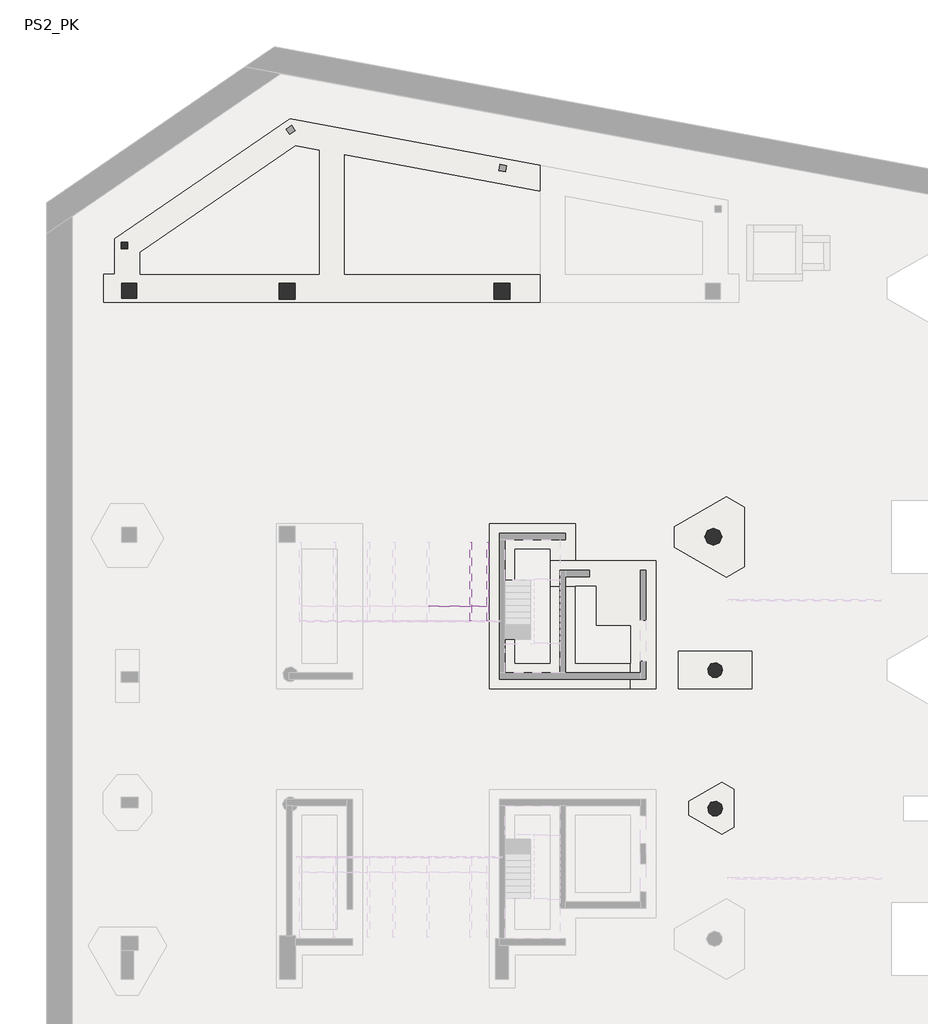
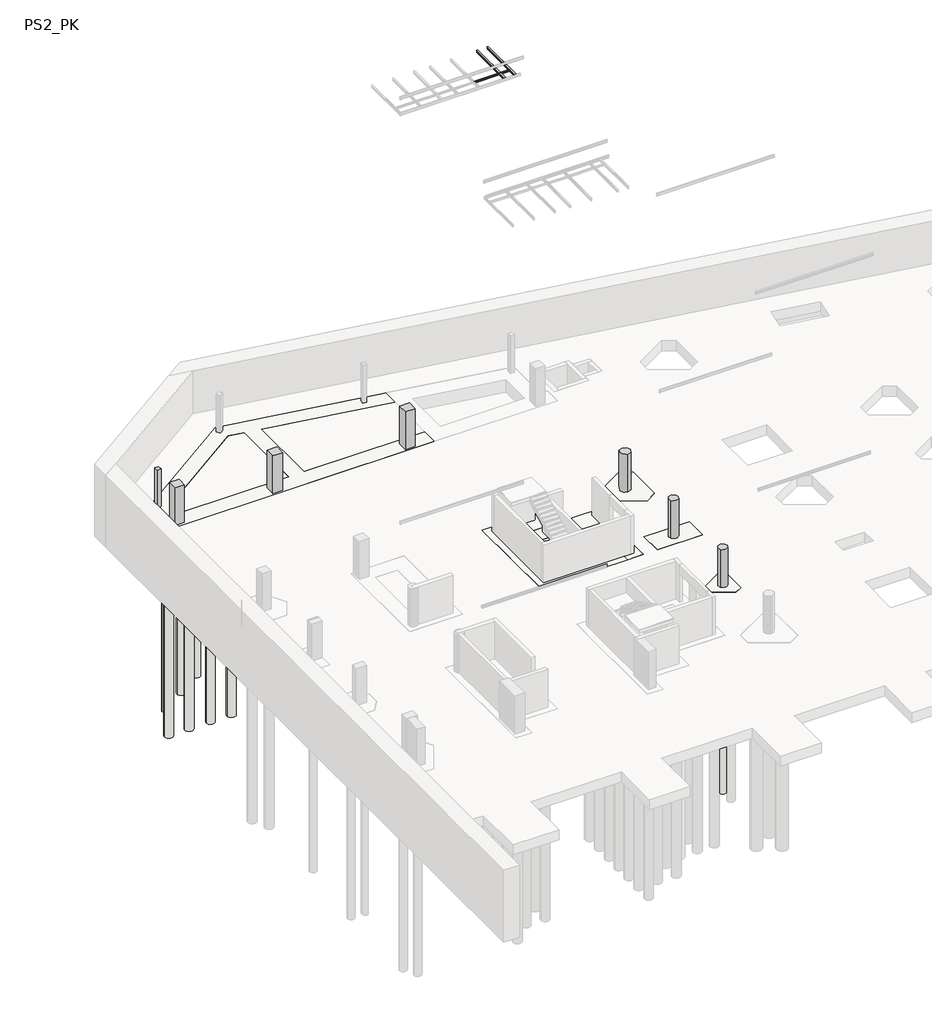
# One storey, part 6 of 10: 51 slabs, 7 columns, 4 beams.
"""IFC4 building model written with IfcOpenShell, lengths in millimetres."""

from ifc_helpers import new_model, si_unit, point, frame, frame_2d, origin, place, context, project, spatial, polyline, circle_curve, trimmed, segment, composite_curve, outline, extrude, faceted_brep, transform, mapped, element, save
from components import ub_universal_beams_ipe_160x82_eda7b881, upn120x55_f3862d68, upn120x55_dbb17e30

model = new_model("IFC4")

# Units and contexts
model_context = context("Model", 3, world=origin())
ifc_project = project(units=[si_unit("LENGTHUNIT", "METRE", prefix="MILLI")], contexts=[model_context])

# Site, building, storey
site = spatial("IfcSite", under=ifc_project)
building = spatial("IfcBuilding", under=site)
storey = spatial("IfcBuildingStorey", under=building, Name="PS2_PK", Elevation=-1600.0)

# Beams
placement = place(None, origin())
ub_universal_beams_ipe_160x82_shape = ub_universal_beams_ipe_160x82_eda7b881(model_context)
element("IfcBeam", 1, ObjectType="UB-Universal Beams : IPE 160x82", at=placement, inside=storey, context=model_context, shape_type="MappedRepresentation", body=[
    mapped(ub_universal_beams_ipe_160x82_shape, transform((-14190.4459331, 11897.1886055, 37780.0), x_axis=(0.0, -1.0, 0.0), y_axis=(1.0, 0.0, 0.0), z_axis=(0.0, 0.0, 1.0))),
])
element("IfcBeam", 2, ObjectType="UB-Universal Beams : IPE 160x82", at=placement, inside=storey, context=model_context, shape_type="MappedRepresentation", body=[
    mapped(ub_universal_beams_ipe_160x82_shape, transform((-14990.4459326, 11897.1885928, 37780.0), x_axis=(0.0, -1.0, 0.0), y_axis=(1.0, 0.0, 0.0), z_axis=(0.0, 0.0, 1.0))),
])
upn120x55_shape = upn120x55_f3862d68(model_context)
element("IfcBeam", 3, ObjectType="M_MC Shapes : UPN120x55", at=placement, inside=storey, context=model_context, shape_type="MappedRepresentation", body=[
    mapped(upn120x55_shape, transform((-15990.4459321, 10751.9795763, 37800.0), x_axis=(0.9999999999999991, 4.319865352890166e-08, 0.0), y_axis=(-4.319865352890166e-08, 0.9999999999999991, 0.0), z_axis=(0.0, 0.0, 1.0))),
])
upn120x55_2_shape = upn120x55_dbb17e30(model_context)
element("IfcBeam", 4, ObjectType="M_MC Shapes : UPN120x55", at=placement, inside=storey, context=model_context, shape_type="MappedRepresentation", body=[
    mapped(upn120x55_2_shape, transform((-14590.4459328, 10751.9796368, 37800.0), x_axis=(0.9999999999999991, 4.319865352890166e-08, 0.0), y_axis=(-4.319865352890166e-08, 0.9999999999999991, 0.0), z_axis=(0.0, 0.0, 1.0))),
])

# Columns
element("IfcColumn", 5, ObjectType="Hormigón-Redondo-Pilar : Pilo_Rodo-Formigo-700", at=placement, inside=storey, context=model_context, shape_type="SweptSolid", body=[
    extrude(outline(composite_curve([segment(trimmed(circle_curve(frame_2d((-3515.29311, 7739.8960687)), 350.0), [point((-3803.5600274, 7541.3962342))], [point((-3227.0261926, 7938.3959033))], False, "CARTESIAN"), True, "CONTINUOUS"), segment(trimmed(circle_curve(frame_2d((-3515.29311, 7739.8960687)), 350.0), [point((-3227.0261926, 7938.3959033))], [point((-3803.5600274, 7541.3962342))], False, "CARTESIAN"), True, "CONTINUOUS")], self_intersect=False)), frame((0.0, 0.0, -1600.0), z_axis=(0.0, 0.0, 1.0), x_axis=(1.0, 0.0, 0.0)), (0.0, 0.0, 1.0), 3050.0),
])
element("IfcColumn", 6, ObjectType="Hormigón-Redondo-Pilar : Pilo_Rodo-Formigo-700", at=placement, inside=storey, context=model_context, shape_type="SweptSolid", body=[
    extrude(outline(composite_curve([segment(trimmed(circle_curve(frame_2d((-3515.2931009, 1239.9008566)), 350.0), [point((-3803.5600183, 1041.401022))], [point((-3227.0261835, 1438.4006912))], False, "CARTESIAN"), True, "CONTINUOUS"), segment(trimmed(circle_curve(frame_2d((-3515.2931009, 1239.9008566)), 350.0), [point((-3227.0261835, 1438.4006912))], [point((-3803.5600183, 1041.401022))], False, "CARTESIAN"), True, "CONTINUOUS")], self_intersect=False)), frame((0.0, 0.0, -1600.0), z_axis=(0.0, 0.0, 1.0), x_axis=(1.0, 0.0, 0.0)), (0.0, 0.0, 1.0), 3050.0),
])
element("IfcColumn", 7, ObjectType="Hormigón-Redondo-Pilar : Pilo_Rodo-Formigo-800", at=placement, inside=storey, context=model_context, shape_type="SweptSolid", body=[
    extrude(outline(composite_curve([segment(trimmed(circle_curve(frame_2d((-3591.6098322, 13989.4007732)), 400.0), [point((-3591.6098322, 14389.4007732))], [point((-3591.6098322, 13589.4007732))], False, "CARTESIAN"), True, "CONTINUOUS"), segment(trimmed(circle_curve(frame_2d((-3591.6098322, 13989.4007732)), 400.0), [point((-3591.6098322, 13589.4007732))], [point((-3591.6098322, 14389.4007732))], False, "CARTESIAN"), True, "CONTINUOUS")], self_intersect=False)), frame((0.0, 0.0, -1600.0), z_axis=(0.0, 0.0, 1.0), x_axis=(1.0, 0.0, 0.0)), (0.0, 0.0, 1.0), 3050.0),
])
element("IfcColumn", 8, ObjectType="Concrete-Rectangular-Column : Pilar_Rectangular-Formigo-750x750", at=placement, inside=storey, context=model_context, shape_type="SweptSolid", body=[
    extrude(outline(polyline([(-23241.1442531, 25889.4252361), (-23241.1452017, 25139.4252361), (-23991.1452017, 25139.4261847), (-23991.1442531, 25889.4261847), (-23241.1442531, 25889.4252361)])), frame((0.0, 0.0, -1600.0), z_axis=(0.0, 0.0, 1.0), x_axis=(1.0, 0.0, 0.0)), (0.0, 0.0, 1.0), 3050.0),
])
element("IfcColumn", 9, ObjectType="Concrete-Rectangular-Column : Pilar_Rectangular-Formigo-750x750", at=placement, inside=storey, context=model_context, shape_type="SweptSolid", body=[
    extrude(outline(polyline([(-13140.3357467, 25889.4124959), (-13140.3366928, 25139.4124959), (-13890.3366928, 25139.4134421), (-13890.3357467, 25889.4134421), (-13140.3357467, 25889.4124959)])), frame((0.0, 0.0, -1600.0), z_axis=(0.0, 0.0, 1.0), x_axis=(1.0, 0.0, 0.0)), (0.0, 0.0, 1.0), 3050.0),
])
element("IfcColumn", 10, ObjectType="Concrete-Rectangular-Column : Pilar_Rectangular-Formigo-700x700", at=placement, inside=storey, context=model_context, shape_type="SweptSolid", body=[
    extrude(outline(polyline([(-30691.1861619, 25889.434628), (-30691.187047, 25189.434628), (-31391.187047, 25189.4355131), (-31391.1861619, 25889.4355131), (-30691.1861619, 25889.434628)])), frame((0.0, 0.0, -1600.0), z_axis=(0.0, 0.0, 1.0), x_axis=(1.0, 0.0, 0.0)), (0.0, 0.0, 1.0), 3050.0),
])
element("IfcColumn", 11, ObjectType="Concrete-Rectangular-Column : Pilar_Rectangular-Formigo-300x300", at=placement, inside=storey, context=model_context, shape_type="SweptSolid", body=[
    extrude(outline(polyline([(-31115.4894009, 27827.9183068), (-31115.4679491, 27527.9183076), (-31415.4679483, 27527.8968558), (-31415.4894002, 27827.896855), (-31115.4894009, 27827.9183068)])), frame((0.0, 0.0, -1600.0), z_axis=(0.0, 0.0, 1.0), x_axis=(1.0, 0.0, 0.0)), (0.0, 0.0, 1.0), 3050.0),
])

# Slabs
element("IfcSlab", 12, ObjectType="FunCap_Concreto_1100", at=placement, inside=storey, context=model_context, shape_type="Brep", body=[
    faceted_brep([(-31715.282563, 27986.0387498, -2700.0), (-23482.9022416, 33625.5735157, -2700.0), (-11740.275697, 31437.3264138, -2700.0), (-11740.2761638, 31068.2628162, -2700.0), (-11740.2766508, 30683.3357077, -2700.0), (-11740.2772411, 30216.6685595, -2700.0), (-20915.2775793, 31926.4366264, -2700.0), (-20915.2846764, 26314.9064878, -2700.0), (-11740.2821769, 26314.8948822, -2700.0), (-11740.2838214, 25014.8948826, -2700.0), (-32240.2838215, 25014.9208132, -2700.0), (-32240.2821764, 26314.9208126, -2700.0), (-31715.2846771, 26314.9201486, -2700.0), (-23214.4700448, 32354.8928362, -2700.0), (-30515.2833633, 27353.5215557, -2700.0), (-30515.2846769, 26314.9186308, -2700.0), (-22115.284678, 26314.908006, -2700.0), (-22115.2772961, 32150.0574576, -2700.0), (-31715.282563, 27986.0387498, -1600.0), (-31715.2846771, 26314.9201486, -1600.0), (-32240.2821764, 26314.9208126, -1600.0), (-32240.2838215, 25014.9208132, -1600.0), (-11740.2838214, 25014.8948826, -1600.0), (-11740.2821769, 26314.8948822, -1600.0), (-20915.2846764, 26314.9064878, -1600.0), (-20915.2775793, 31926.4366264, -1600.0), (-11740.2772411, 30216.6685595, -1600.0), (-11740.275697, 31437.3264138, -1600.0), (-23482.9022416, 33625.5735157, -1600.0), (-23214.4700448, 32354.8928362, -1600.0), (-22115.2772961, 32150.0574576, -1600.0), (-22115.284678, 26314.908006, -1600.0), (-30515.2846769, 26314.9186308, -1600.0), (-30515.2833633, 27353.5215557, -1600.0), (-31715.282563, 27986.0387498, -2400.0), (-23482.9022416, 33625.5735157, -2400.0), (-11740.2772411, 30216.6685595, -2400.0), (-20915.2775793, 31926.4366264, -2400.0), (-20915.2846764, 26314.9064878, -2400.0), (-11740.2821769, 26314.8948822, -2400.0), (-32240.2838215, 25014.9208132, -2400.0), (-32240.2821764, 26314.9208126, -2400.0), (-31715.2846771, 26314.9201486, -2400.0), (-23214.4700448, 32354.8928362, -2400.0), (-30515.2833633, 27353.5215557, -2400.0), (-30515.2846769, 26314.9186308, -2400.0), (-22115.284678, 26314.908006, -2400.0), (-22115.2772961, 32150.0574576, -2400.0)], [[[0, 1, 2, 3, 4, 5, 6, 7, 8, 9, 10, 11, 12], [13, 14, 15, 16, 17]], [[18, 19, 20, 21, 22, 23, 24, 25, 26, 27, 28], [29, 30, 31, 32, 33]], [[1, 0, 34, 18, 28, 35]], [[2, 1, 35, 28, 27]], [[5, 4, 3, 2, 27, 26, 36]], [[6, 5, 36, 26, 25, 37]], [[7, 6, 37, 25, 24, 38]], [[8, 7, 38, 24, 23, 39]], [[9, 8, 39, 23, 22]], [[10, 9, 22, 21, 40]], [[11, 10, 40, 21, 20, 41]], [[12, 11, 41, 20, 19, 42]], [[0, 12, 42, 19, 18, 34]], [[14, 13, 43, 29, 33, 44]], [[15, 14, 44, 33, 32, 45]], [[16, 15, 45, 32, 31, 46]], [[17, 16, 46, 31, 30, 47]], [[13, 17, 47, 30, 29, 43]]]),
])
element("IfcSlab", 13, ObjectType="FunCap_Concreto_1100", at=placement, inside=storey, context=model_context, shape_type="Brep", body=[
    faceted_brep([(-2988.4632595, 15877.3838122, -2700.0), (-2144.0891069, 15389.8827438, -2700.0), (-2144.0926487, 12589.8827436, -2700.0), (-2988.4680339, 12102.3838123, -2700.0), (-5413.337393, 13502.3868799, -2700.0), (-5413.3361598, 14477.3868796, -2700.0), (-2988.4632595, 15877.3838122, -1600.0), (-5413.3361598, 14477.3868796, -1600.0), (-5413.337393, 13502.3868799, -1600.0), (-2988.4680339, 12102.3838123, -1600.0), (-2144.0926487, 12589.8827436, -1600.0), (-2144.0891069, 15389.8827438, -1600.0), (-2988.4632595, 15877.3838122, -2400.0), (-2144.0891069, 15389.8827438, -2400.0), (-2144.0926487, 12589.8827436, -2400.0), (-2988.4680339, 12102.3838123, -2400.0), (-5413.337393, 13502.3868799, -2400.0), (-5413.3361598, 14477.3868796, -2400.0)], [[[0, 1, 2, 3, 4, 5]], [[6, 7, 8, 9, 10, 11]], [[1, 0, 12, 6, 11, 13]], [[2, 1, 13, 11, 10, 14]], [[3, 2, 14, 10, 9, 15]], [[4, 3, 15, 9, 8, 16]], [[5, 4, 16, 8, 7, 17]], [[0, 5, 17, 7, 6, 12]]]),
])
element("IfcSlab", 14, ObjectType="FunCap_Concreto_1100", at=placement, inside=storey, context=model_context, shape_type="Brep", body=[
    faceted_brep([(-10065.2907731, 14614.8927644, -2700.0), (-10065.2929865, 12864.8930964, -2700.0), (-11265.2929855, 12864.8946143, -2700.0), (-11265.2922897, 13414.8942806, -2700.0), (-12915.298495, 13414.8963689, -2700.0), (-12915.3052606, 8064.8963679, -2700.0), (-11265.2990581, 8064.8942819, -2700.0), (-11265.2945036, 11664.8946128, -2700.0), (-10065.2945042, 11664.8930953, -2700.0), (-10065.2990574, 8064.8927646, -2700.0), (-7490.3041106, 8064.8895069, -2700.0), (-7490.3056279, 6864.8895068, -2700.0), (-14115.3067799, 6864.8978864, -2700.0), (-14115.296976, 14614.8978873, -2700.0), (-10065.2907731, 14614.8927644, -1600.0), (-14115.296976, 14614.8978873, -1600.0), (-14115.3067799, 6864.8978864, -1600.0), (-7490.3056279, 6864.8895068, -1600.0), (-7490.3041106, 8064.8895069, -1600.0), (-10065.2990574, 8064.8927646, -1600.0), (-10065.2945042, 11664.8930953, -1600.0), (-11265.2945036, 11664.8946128, -1600.0), (-11265.2990581, 8064.8942819, -1600.0), (-12915.3052606, 8064.8963679, -1600.0), (-12915.298495, 13414.8963689, -1600.0), (-11265.2922897, 13414.8942806, -1600.0), (-11265.2929855, 12864.8946143, -1600.0), (-10065.2929865, 12864.8930964, -1600.0), (-10065.2907731, 14614.8927644, -2400.0), (-10065.2929865, 12864.8930964, -2400.0), (-14115.3067799, 6864.8978864, -2400.0), (-14115.296976, 14614.8978873, -2400.0), (-12915.298495, 13414.8963689, -2400.0), (-12915.3052606, 8064.8963679, -2400.0), (-11265.2990581, 8064.8942819, -2400.0), (-11265.2922897, 13414.8942806, -2400.0), (-7490.3041106, 8064.8895069, -2400.0), (-10065.2945042, 11664.8930953, -2400.0), (-10065.2990574, 8064.8927646, -2400.0)], [[[0, 1, 2, 3, 4, 5, 6, 7, 8, 9, 10, 11, 12, 13]], [[14, 15, 16, 17, 18, 19, 20, 21, 22, 23, 24, 25, 26, 27]], [[1, 0, 28, 14, 27, 29]], [[2, 1, 29, 27, 26]], [[12, 11, 17, 16, 30]], [[13, 12, 30, 16, 15, 31]], [[0, 13, 31, 15, 14, 28]], [[5, 4, 32, 24, 23, 33]], [[6, 5, 33, 23, 22, 34]], [[7, 6, 34, 22, 21]], [[4, 3, 35, 25, 24, 32]], [[11, 10, 36, 18, 17]], [[8, 7, 21, 20, 37]], [[9, 8, 37, 20, 19, 38]], [[10, 9, 38, 19, 18, 36]], [[3, 2, 26, 25, 35]]]),
])
element("IfcSlab", 15, ObjectType="FunCap_Concreto_1100", at=placement, inside=storey, context=model_context, shape_type="Brep", body=[
    faceted_brep([(-5240.3045662, 8614.8866605, -2700.0), (-1790.3045642, 8614.8822969, -2700.0), (-1790.3067797, 6864.8822969, -2700.0), (-5240.3067795, 6864.8866605, -2700.0), (-5240.3045662, 8614.8866605, -1600.0), (-5240.3067795, 6864.8866605, -1600.0), (-1790.3067797, 6864.8822969, -1600.0), (-1790.3045642, 8614.8822969, -1600.0), (-5240.3045662, 8614.8866605, -2400.0), (-1790.3045642, 8614.8822969, -2400.0), (-1790.3067797, 6864.8822969, -2400.0), (-5240.3067795, 6864.8866605, -2400.0)], [[[0, 1, 2, 3]], [[4, 5, 6, 7]], [[1, 0, 8, 4, 7, 9]], [[2, 1, 9, 7, 6, 10]], [[3, 2, 10, 6, 5, 11]], [[0, 3, 11, 5, 4, 8]]]),
])
element("IfcSlab", 16, ObjectType="FunCap_Concreto_1100", at=placement, inside=storey, context=model_context, shape_type="Brep", body=[
    faceted_brep([(-2627.636701, 2152.3833555, -2700.0), (-2627.6389786, 352.3833557, -2700.0), (-3190.5559007, 27.3840668, -2700.0), (-4749.4004892, 927.3860381, -2700.0), (-4749.3996674, 1577.3860385, -2700.0), (-3190.5528032, 2477.3840674, -2700.0), (-2627.636701, 2152.3833555, -1600.0), (-3190.5528032, 2477.3840674, -1600.0), (-4749.3996674, 1577.3860385, -1600.0), (-4749.4004892, 927.3860381, -1600.0), (-3190.5559007, 27.3840668, -1600.0), (-2627.6389786, 352.3833557, -1600.0), (-2627.636701, 2152.3833555, -2400.0), (-2627.6389786, 352.3833557, -2400.0), (-3190.5559007, 27.3840668, -2400.0), (-4749.4004892, 927.3860381, -2400.0), (-4749.3996674, 1577.3860385, -2400.0), (-3190.5528032, 2477.3840674, -2400.0)], [[[0, 1, 2, 3, 4, 5]], [[6, 7, 8, 9, 10, 11]], [[1, 0, 12, 6, 11, 13]], [[2, 1, 13, 11, 10, 14]], [[3, 2, 14, 10, 9, 15]], [[4, 3, 15, 9, 8, 16]], [[5, 4, 16, 8, 7, 17]], [[0, 5, 17, 7, 6, 12]]]),
])
element("IfcSlab", 17, ObjectType="Fun_Pilote_Redondo : Fun_Pilote_Redondo_550x16000", at=placement, inside=storey, context=model_context, shape_type="SweptSolid", body=[
    extrude(outline(composite_curve([segment(trimmed(circle_curve(frame_2d((-3197.5652475, 1789.6052198)), 275.0), [point((-3472.5652475, 1789.6052198))], [point((-2922.5652475, 1789.6052198))], False, "CARTESIAN"), True, "CONTINUOUS"), segment(trimmed(circle_curve(frame_2d((-3197.5652475, 1789.6052198)), 275.0), [point((-2922.5652475, 1789.6052198))], [point((-3472.5652475, 1789.6052198))], False, "CARTESIAN"), True, "CONTINUOUS")], self_intersect=False)), frame((0.0, 0.0, -18700.0), z_axis=(0.0, 0.0, 1.0), x_axis=(1.0, 0.0, 0.0)), (0.0, 0.0, 1.0), 16000.0),
])
element("IfcSlab", 18, ObjectType="Fun_Pilote_Redondo : Fun_Pilote_Redondo_Conc_650x16000", at=placement, inside=storey, context=model_context, shape_type="SweptSolid", body=[
    extrude(outline(composite_curve([segment(trimmed(circle_curve(frame_2d((-14123.8798371, 31271.1837309)), 325.0), [point((-14448.8798371, 31271.1837309))], [point((-13798.8798371, 31271.1837309))], False, "CARTESIAN"), True, "CONTINUOUS"), segment(trimmed(circle_curve(frame_2d((-14123.8798371, 31271.1837309)), 325.0), [point((-13798.8798371, 31271.1837309))], [point((-14448.8798371, 31271.1837309))], False, "CARTESIAN"), True, "CONTINUOUS")], self_intersect=False)), frame((0.0, 0.0, -18700.0), z_axis=(0.0, 0.0, 1.0), x_axis=(1.0, 0.0, 0.0)), (0.0, 0.0, 1.0), 16000.0),
])
element("IfcSlab", 19, ObjectType="Fun_Pilote_Redondo : Fun_Pilote_Redondo_Conc_650x16000", at=placement, inside=storey, context=model_context, shape_type="SweptSolid", body=[
    extrude(outline(composite_curve([segment(trimmed(circle_curve(frame_2d((-16245.6001235, 31666.5678686)), 325.0), [point((-16570.6001235, 31666.5678686))], [point((-15920.6001235, 31666.5678686))], False, "CARTESIAN"), True, "CONTINUOUS"), segment(trimmed(circle_curve(frame_2d((-16245.6001235, 31666.5678686)), 325.0), [point((-15920.6001235, 31666.5678686))], [point((-16570.6001235, 31666.5678686))], False, "CARTESIAN"), True, "CONTINUOUS")], self_intersect=False)), frame((0.0, 0.0, -18700.0), z_axis=(0.0, 0.0, 1.0), x_axis=(1.0, 0.0, 0.0)), (0.0, 0.0, 1.0), 16000.0),
])
element("IfcSlab", 20, ObjectType="Fun_Pilote_Redondo : Fun_Pilote_Redondo_Conc_650x16000", at=placement, inside=storey, context=model_context, shape_type="SweptSolid", body=[
    extrude(outline(composite_curve([segment(trimmed(circle_curve(frame_2d((-26598.4080567, 30764.0338242)), 325.0), [point((-26923.4080567, 30764.0338242))], [point((-26273.4080567, 30764.0338242))], False, "CARTESIAN"), True, "CONTINUOUS"), segment(trimmed(circle_curve(frame_2d((-26598.4080567, 30764.0338242)), 325.0), [point((-26273.4080567, 30764.0338242))], [point((-26923.4080567, 30764.0338242))], False, "CARTESIAN"), True, "CONTINUOUS")], self_intersect=False)), frame((0.0, 0.0, -18700.0), z_axis=(0.0, 0.0, 1.0), x_axis=(1.0, 0.0, 0.0)), (0.0, 0.0, 1.0), 16000.0),
])
element("IfcSlab", 21, ObjectType="Fun_Pilote_Redondo : Fun_Pilote_Redondo_Conc_650x16000", at=placement, inside=storey, context=model_context, shape_type="SweptSolid", body=[
    extrude(outline(composite_curve([segment(trimmed(circle_curve(frame_2d((-28441.4558422, 29501.4667848)), 325.0), [point((-28766.4558422, 29501.4667848))], [point((-28116.4558422, 29501.4667848))], False, "CARTESIAN"), True, "CONTINUOUS"), segment(trimmed(circle_curve(frame_2d((-28441.4558422, 29501.4667848)), 325.0), [point((-28116.4558422, 29501.4667848))], [point((-28766.4558422, 29501.4667848))], False, "CARTESIAN"), True, "CONTINUOUS")], self_intersect=False)), frame((0.0, 0.0, -18700.0), z_axis=(0.0, 0.0, 1.0), x_axis=(1.0, 0.0, 0.0)), (0.0, 0.0, 1.0), 16000.0),
])
element("IfcSlab", 22, ObjectType="Fun_Pilote_Redondo : Fun_Pilote_Redondo_Conc_650x16000", at=placement, inside=storey, context=model_context, shape_type="SweptSolid", body=[
    extrude(outline(composite_curve([segment(trimmed(circle_curve(frame_2d((-30284.5036276, 28238.8997454)), 325.0), [point((-30609.5036276, 28238.8997454))], [point((-29959.5036276, 28238.8997454))], False, "CARTESIAN"), True, "CONTINUOUS"), segment(trimmed(circle_curve(frame_2d((-30284.5036276, 28238.8997454)), 325.0), [point((-29959.5036276, 28238.8997454))], [point((-30609.5036276, 28238.8997454))], False, "CARTESIAN"), True, "CONTINUOUS")], self_intersect=False)), frame((0.0, 0.0, -18700.0), z_axis=(0.0, 0.0, 1.0), x_axis=(1.0, 0.0, 0.0)), (0.0, 0.0, 1.0), 16000.0),
])
element("IfcSlab", 23, ObjectType="Fun_Pilote_Redondo : Fun_Pilote_Redondo_Conc_650x16000", at=placement, inside=storey, context=model_context, shape_type="SweptSolid", body=[
    extrude(outline(composite_curve([segment(trimmed(circle_curve(frame_2d((-31615.2829935, 25664.9200256)), 325.0), [point((-31940.2829935, 25664.9200256))], [point((-31290.2829935, 25664.9200256))], False, "CARTESIAN"), True, "CONTINUOUS"), segment(trimmed(circle_curve(frame_2d((-31615.2829935, 25664.9200256)), 325.0), [point((-31290.2829935, 25664.9200256))], [point((-31940.2829935, 25664.9200256))], False, "CARTESIAN"), True, "CONTINUOUS")], self_intersect=False)), frame((0.0, 0.0, -18700.0), z_axis=(0.0, 0.0, 1.0), x_axis=(1.0, 0.0, 0.0)), (0.0, 0.0, 1.0), 16000.0),
])
element("IfcSlab", 24, ObjectType="Fun_Pilote_Redondo : Fun_Pilote_Redondo_Conc_650x16000", at=placement, inside=storey, context=model_context, shape_type="SweptSolid", body=[
    extrude(outline(composite_curve([segment(trimmed(circle_curve(frame_2d((-30058.7811714, 25664.9180567)), 325.0), [point((-30383.7811714, 25664.9180567))], [point((-29733.7811714, 25664.9180567))], False, "CARTESIAN"), True, "CONTINUOUS"), segment(trimmed(circle_curve(frame_2d((-30058.7811714, 25664.9180567)), 325.0), [point((-29733.7811714, 25664.9180567))], [point((-30383.7811714, 25664.9180567))], False, "CARTESIAN"), True, "CONTINUOUS")], self_intersect=False)), frame((0.0, 0.0, -18700.0), z_axis=(0.0, 0.0, 1.0), x_axis=(1.0, 0.0, 0.0)), (0.0, 0.0, 1.0), 16000.0),
])
element("IfcSlab", 25, ObjectType="Fun_Pilote_Redondo : Fun_Pilote_Redondo_Conc_650x16000", at=placement, inside=storey, context=model_context, shape_type="SweptSolid", body=[
    extrude(outline(composite_curve([segment(trimmed(circle_curve(frame_2d((-28437.5052156, 25664.9160053)), 325.0), [point((-28762.5052156, 25664.9160053))], [point((-28112.5052156, 25664.9160053))], False, "CARTESIAN"), True, "CONTINUOUS"), segment(trimmed(circle_curve(frame_2d((-28437.5052156, 25664.9160053)), 325.0), [point((-28112.5052156, 25664.9160053))], [point((-28762.5052156, 25664.9160053))], False, "CARTESIAN"), True, "CONTINUOUS")], self_intersect=False)), frame((0.0, 0.0, -18700.0), z_axis=(0.0, 0.0, 1.0), x_axis=(1.0, 0.0, 0.0)), (0.0, 0.0, 1.0), 16000.0),
])
element("IfcSlab", 26, ObjectType="Fun_Pilote_Redondo : Fun_Pilote_Redondo_Conc_650x16000", at=placement, inside=storey, context=model_context, shape_type="SweptSolid", body=[
    extrude(outline(composite_curve([segment(trimmed(circle_curve(frame_2d((-26848.6163269, 25664.9139954)), 325.0), [point((-27173.6163269, 25664.9139954))], [point((-26523.6163269, 25664.9139954))], False, "CARTESIAN"), True, "CONTINUOUS"), segment(trimmed(circle_curve(frame_2d((-26848.6163269, 25664.9139954)), 325.0), [point((-26523.6163269, 25664.9139954))], [point((-27173.6163269, 25664.9139954))], False, "CARTESIAN"), True, "CONTINUOUS")], self_intersect=False)), frame((0.0, 0.0, -18700.0), z_axis=(0.0, 0.0, 1.0), x_axis=(1.0, 0.0, 0.0)), (0.0, 0.0, 1.0), 16000.0),
])
element("IfcSlab", 27, ObjectType="Fun_Pilote_Redondo : Fun_Pilote_Redondo_Conc_650x16000", at=placement, inside=storey, context=model_context, shape_type="SweptSolid", body=[
    extrude(outline(composite_curve([segment(trimmed(circle_curve(frame_2d((-25259.7274387, 25664.9119855)), 325.0), [point((-25584.7274387, 25664.9119855))], [point((-24934.7274387, 25664.9119855))], False, "CARTESIAN"), True, "CONTINUOUS"), segment(trimmed(circle_curve(frame_2d((-25259.7274387, 25664.9119855)), 325.0), [point((-24934.7274387, 25664.9119855))], [point((-25584.7274387, 25664.9119855))], False, "CARTESIAN"), True, "CONTINUOUS")], self_intersect=False)), frame((0.0, 0.0, -18700.0), z_axis=(0.0, 0.0, 1.0), x_axis=(1.0, 0.0, 0.0)), (0.0, 0.0, 1.0), 16000.0),
])
element("IfcSlab", 28, ObjectType="Fun_Pilote_Redondo : Fun_Pilote_Redondo_Conc_650x16000", at=placement, inside=storey, context=model_context, shape_type="SweptSolid", body=[
    extrude(outline(composite_curve([segment(trimmed(circle_curve(frame_2d((-23670.8385495, 25664.9099756)), 325.0), [point((-23995.8385495, 25664.9099756))], [point((-23345.8385495, 25664.9099756))], False, "CARTESIAN"), True, "CONTINUOUS"), segment(trimmed(circle_curve(frame_2d((-23670.8385495, 25664.9099756)), 325.0), [point((-23345.8385495, 25664.9099756))], [point((-23995.8385495, 25664.9099756))], False, "CARTESIAN"), True, "CONTINUOUS")], self_intersect=False)), frame((0.0, 0.0, -18700.0), z_axis=(0.0, 0.0, 1.0), x_axis=(1.0, 0.0, 0.0)), (0.0, 0.0, 1.0), 16000.0),
])
element("IfcSlab", 29, ObjectType="Fun_Pilote_Redondo : Fun_Pilote_Redondo_Conc_650x16000", at=placement, inside=storey, context=model_context, shape_type="SweptSolid", body=[
    extrude(outline(composite_curve([segment(trimmed(circle_curve(frame_2d((-22081.9496603, 25664.9079653)), 325.0), [point((-22406.9496603, 25664.9079653))], [point((-21756.9496603, 25664.9079653))], False, "CARTESIAN"), True, "CONTINUOUS"), segment(trimmed(circle_curve(frame_2d((-22081.9496603, 25664.9079653)), 325.0), [point((-21756.9496603, 25664.9079653))], [point((-22406.9496603, 25664.9079653))], False, "CARTESIAN"), True, "CONTINUOUS")], self_intersect=False)), frame((0.0, 0.0, -18700.0), z_axis=(0.0, 0.0, 1.0), x_axis=(1.0, 0.0, 0.0)), (0.0, 0.0, 1.0), 16000.0),
])
element("IfcSlab", 30, ObjectType="Fun_Pilote_Redondo : Fun_Pilote_Redondo_Conc_650x16000", at=placement, inside=storey, context=model_context, shape_type="SweptSolid", body=[
    extrude(outline(composite_curve([segment(trimmed(circle_curve(frame_2d((-21515.2832853, 27410.8244291)), 325.0), [point((-21840.2832853, 27410.8244291))], [point((-21190.2832853, 27410.8244291))], False, "CARTESIAN"), True, "CONTINUOUS"), segment(trimmed(circle_curve(frame_2d((-21515.2832853, 27410.8244291)), 325.0), [point((-21190.2832853, 27410.8244291))], [point((-21840.2832853, 27410.8244291))], False, "CARTESIAN"), True, "CONTINUOUS")], self_intersect=False)), frame((0.0, 0.0, -18700.0), z_axis=(0.0, 0.0, 1.0), x_axis=(1.0, 0.0, 0.0)), (0.0, 0.0, 1.0), 16000.0),
])
element("IfcSlab", 31, ObjectType="Fun_Pilote_Redondo : Fun_Pilote_Redondo_Conc_650x16000", at=placement, inside=storey, context=model_context, shape_type="SweptSolid", body=[
    extrude(outline(composite_curve([segment(trimmed(circle_curve(frame_2d((-21515.2810765, 29156.7416101)), 325.0), [point((-21840.2810765, 29156.7416101))], [point((-21190.2810765, 29156.7416101))], False, "CARTESIAN"), True, "CONTINUOUS"), segment(trimmed(circle_curve(frame_2d((-21515.2810765, 29156.7416101)), 325.0), [point((-21190.2810765, 29156.7416101))], [point((-21840.2810765, 29156.7416101))], False, "CARTESIAN"), True, "CONTINUOUS")], self_intersect=False)), frame((0.0, 0.0, -18700.0), z_axis=(0.0, 0.0, 1.0), x_axis=(1.0, 0.0, 0.0)), (0.0, 0.0, 1.0), 16000.0),
])
element("IfcSlab", 32, ObjectType="Fun_Pilote_Redondo : Fun_Pilote_Redondo_Conc_650x16000", at=placement, inside=storey, context=model_context, shape_type="SweptSolid", body=[
    extrude(outline(composite_curve([segment(trimmed(circle_curve(frame_2d((-21515.2788673, 30902.6587907)), 325.0), [point((-21840.2788673, 30902.6587907))], [point((-21190.2788673, 30902.6587907))], False, "CARTESIAN"), True, "CONTINUOUS"), segment(trimmed(circle_curve(frame_2d((-21515.2788673, 30902.6587907)), 325.0), [point((-21190.2788673, 30902.6587907))], [point((-21840.2788673, 30902.6587907))], False, "CARTESIAN"), True, "CONTINUOUS")], self_intersect=False)), frame((0.0, 0.0, -18700.0), z_axis=(0.0, 0.0, 1.0), x_axis=(1.0, 0.0, 0.0)), (0.0, 0.0, 1.0), 16000.0),
])
element("IfcSlab", 33, ObjectType="Fun_Pilote_Redondo : Fun_Pilote_Redondo_Conc_650x16000", at=placement, inside=storey, context=model_context, shape_type="SweptSolid", body=[
    extrude(outline(composite_curve([segment(trimmed(circle_curve(frame_2d((-20493.0607711, 25664.9059554)), 325.0), [point((-20818.0607711, 25664.9059554))], [point((-20168.0607711, 25664.9059554))], False, "CARTESIAN"), True, "CONTINUOUS"), segment(trimmed(circle_curve(frame_2d((-20493.0607711, 25664.9059554)), 325.0), [point((-20168.0607711, 25664.9059554))], [point((-20818.0607711, 25664.9059554))], False, "CARTESIAN"), True, "CONTINUOUS")], self_intersect=False)), frame((0.0, 0.0, -18700.0), z_axis=(0.0, 0.0, 1.0), x_axis=(1.0, 0.0, 0.0)), (0.0, 0.0, 1.0), 16000.0),
])
element("IfcSlab", 34, ObjectType="Fun_Pilote_Redondo : Fun_Pilote_Redondo_Conc_650x16000", at=placement, inside=storey, context=model_context, shape_type="SweptSolid", body=[
    extrude(outline(composite_curve([segment(trimmed(circle_curve(frame_2d((-18904.1718829, 25664.9039455)), 325.0), [point((-19229.1718829, 25664.9039455))], [point((-18579.1718829, 25664.9039455))], False, "CARTESIAN"), True, "CONTINUOUS"), segment(trimmed(circle_curve(frame_2d((-18904.1718829, 25664.9039455)), 325.0), [point((-18579.1718829, 25664.9039455))], [point((-19229.1718829, 25664.9039455))], False, "CARTESIAN"), True, "CONTINUOUS")], self_intersect=False)), frame((0.0, 0.0, -18700.0), z_axis=(0.0, 0.0, 1.0), x_axis=(1.0, 0.0, 0.0)), (0.0, 0.0, 1.0), 16000.0),
])
element("IfcSlab", 35, ObjectType="Fun_Pilote_Redondo : Fun_Pilote_Redondo_Conc_650x16000", at=placement, inside=storey, context=model_context, shape_type="SweptSolid", body=[
    extrude(outline(composite_curve([segment(trimmed(circle_curve(frame_2d((-17315.2829937, 25664.9019351)), 325.0), [point((-17640.2829937, 25664.9019351))], [point((-16990.2829937, 25664.9019351))], False, "CARTESIAN"), True, "CONTINUOUS"), segment(trimmed(circle_curve(frame_2d((-17315.2829937, 25664.9019351)), 325.0), [point((-16990.2829937, 25664.9019351))], [point((-17640.2829937, 25664.9019351))], False, "CARTESIAN"), True, "CONTINUOUS")], self_intersect=False)), frame((0.0, 0.0, -18700.0), z_axis=(0.0, 0.0, 1.0), x_axis=(1.0, 0.0, 0.0)), (0.0, 0.0, 1.0), 16000.0),
])
element("IfcSlab", 36, ObjectType="Fun_Pilote_Redondo : Fun_Pilote_Redondo_Conc_650x16000", at=placement, inside=storey, context=model_context, shape_type="SweptSolid", body=[
    extrude(outline(composite_curve([segment(trimmed(circle_curve(frame_2d((-15726.394105, 25664.8999252)), 325.0), [point((-16051.394105, 25664.8999252))], [point((-15401.394105, 25664.8999252))], False, "CARTESIAN"), True, "CONTINUOUS"), segment(trimmed(circle_curve(frame_2d((-15726.394105, 25664.8999252)), 325.0), [point((-15401.394105, 25664.8999252))], [point((-16051.394105, 25664.8999252))], False, "CARTESIAN"), True, "CONTINUOUS")], self_intersect=False)), frame((0.0, 0.0, -18700.0), z_axis=(0.0, 0.0, 1.0), x_axis=(1.0, 0.0, 0.0)), (0.0, 0.0, 1.0), 16000.0),
])
element("IfcSlab", 37, ObjectType="Fun_Pilote_Redondo : Fun_Pilote_Redondo_Conc_650x16000", at=placement, inside=storey, context=model_context, shape_type="SweptSolid", body=[
    extrude(outline(composite_curve([segment(trimmed(circle_curve(frame_2d((-14137.5052163, 25664.8979153)), 325.0), [point((-14462.5052163, 25664.8979153))], [point((-13812.5052163, 25664.8979153))], False, "CARTESIAN"), True, "CONTINUOUS"), segment(trimmed(circle_curve(frame_2d((-14137.5052163, 25664.8979153)), 325.0), [point((-13812.5052163, 25664.8979153))], [point((-14462.5052163, 25664.8979153))], False, "CARTESIAN"), True, "CONTINUOUS")], self_intersect=False)), frame((0.0, 0.0, -18700.0), z_axis=(0.0, 0.0, 1.0), x_axis=(1.0, 0.0, 0.0)), (0.0, 0.0, 1.0), 16000.0),
])
element("IfcSlab", 38, ObjectType="Fun_Pilote_Redondo : Fun_Pilote_Redondo_Conc_650x16000", at=placement, inside=storey, context=model_context, shape_type="SweptSolid", body=[
    extrude(outline(composite_curve([segment(trimmed(circle_curve(frame_2d((-12548.6163271, 25664.8959045)), 325.0), [point((-12873.6163271, 25664.8959045))], [point((-12223.6163271, 25664.8959045))], False, "CARTESIAN"), True, "CONTINUOUS"), segment(trimmed(circle_curve(frame_2d((-12548.6163271, 25664.8959045)), 325.0), [point((-12223.6163271, 25664.8959045))], [point((-12873.6163271, 25664.8959045))], False, "CARTESIAN"), True, "CONTINUOUS")], self_intersect=False)), frame((0.0, 0.0, -18700.0), z_axis=(0.0, 0.0, 1.0), x_axis=(1.0, 0.0, 0.0)), (0.0, 0.0, 1.0), 16000.0),
])
element("IfcSlab", 39, ObjectType="Fun_Pilote_Redondo : Fun_Pilote_Redondo_Conc_650x16000", at=placement, inside=storey, context=model_context, shape_type="SweptSolid", body=[
    extrude(outline(composite_curve([segment(trimmed(circle_curve(frame_2d((-10959.7274384, 25664.8938951)), 325.0), [point((-11284.7274384, 25664.8938951))], [point((-10634.7274384, 25664.8938951))], False, "CARTESIAN"), True, "CONTINUOUS"), segment(trimmed(circle_curve(frame_2d((-10959.7274384, 25664.8938951)), 325.0), [point((-10634.7274384, 25664.8938951))], [point((-11284.7274384, 25664.8938951))], False, "CARTESIAN"), True, "CONTINUOUS")], self_intersect=False)), frame((0.0, 0.0, -18700.0), z_axis=(0.0, 0.0, 1.0), x_axis=(1.0, 0.0, 0.0)), (0.0, 0.0, 1.0), 15700.0),
])
element("IfcSlab", 40, ObjectType="Fun_Pilote_Redondo : Fun_Pilote_Redondo_Conc_650x16000", at=placement, inside=storey, context=model_context, shape_type="SweptSolid", body=[
    extrude(outline(composite_curve([segment(trimmed(circle_curve(frame_2d((-9370.8385497, 25664.8918852)), 325.0), [point((-9695.8385497, 25664.8918852))], [point((-9045.8385497, 25664.8918852))], False, "CARTESIAN"), True, "CONTINUOUS"), segment(trimmed(circle_curve(frame_2d((-9370.8385497, 25664.8918852)), 325.0), [point((-9045.8385497, 25664.8918852))], [point((-9695.8385497, 25664.8918852))], False, "CARTESIAN"), True, "CONTINUOUS")], self_intersect=False)), frame((0.0, 0.0, -18700.0), z_axis=(0.0, 0.0, 1.0), x_axis=(1.0, 0.0, 0.0)), (0.0, 0.0, 1.0), 15700.0),
])
element("IfcSlab", 41, ObjectType="Fun_Pilote_Redondo : Fun_Pilote_Redondo_Conc_650x16000", at=placement, inside=storey, context=model_context, shape_type="SweptSolid", body=[
    extrude(outline(composite_curve([segment(trimmed(circle_curve(frame_2d((-13515.2977632, 13989.897128)), 325.0), [point((-13840.2977632, 13989.897128))], [point((-13190.2977632, 13989.897128))], False, "CARTESIAN"), True, "CONTINUOUS"), segment(trimmed(circle_curve(frame_2d((-13515.2977632, 13989.897128)), 325.0), [point((-13190.2977632, 13989.897128))], [point((-13840.2977632, 13989.897128))], False, "CARTESIAN"), True, "CONTINUOUS")], self_intersect=False)), frame((0.0, 0.0, -18700.0), z_axis=(0.0, 0.0, 1.0), x_axis=(1.0, 0.0, 0.0)), (0.0, 0.0, 1.0), 16000.0),
])
element("IfcSlab", 42, ObjectType="Fun_Pilote_Redondo : Fun_Pilote_Redondo_Conc_650x16000", at=placement, inside=storey, context=model_context, shape_type="SweptSolid", body=[
    extrude(outline(composite_curve([segment(trimmed(circle_curve(frame_2d((-12090.2977634, 13989.8953256)), 325.0), [point((-12415.2977634, 13989.8953256))], [point((-11765.2977634, 13989.8953256))], False, "CARTESIAN"), True, "CONTINUOUS"), segment(trimmed(circle_curve(frame_2d((-12090.2977634, 13989.8953256)), 325.0), [point((-11765.2977634, 13989.8953256))], [point((-12415.2977634, 13989.8953256))], False, "CARTESIAN"), True, "CONTINUOUS")], self_intersect=False)), frame((0.0, 0.0, -18700.0), z_axis=(0.0, 0.0, 1.0), x_axis=(1.0, 0.0, 0.0)), (0.0, 0.0, 1.0), 16000.0),
])
element("IfcSlab", 43, ObjectType="Fun_Pilote_Redondo : Fun_Pilote_Redondo_Conc_650x16000", at=placement, inside=storey, context=model_context, shape_type="SweptSolid", body=[
    extrude(outline(composite_curve([segment(trimmed(circle_curve(frame_2d((-10656.3076681, 13989.893511)), 325.0), [point((-10981.3076681, 13989.893511))], [point((-10331.3076681, 13989.893511))], False, "CARTESIAN"), True, "CONTINUOUS"), segment(trimmed(circle_curve(frame_2d((-10656.3076681, 13989.893511)), 325.0), [point((-10331.3076681, 13989.893511))], [point((-10981.3076681, 13989.893511))], False, "CARTESIAN"), True, "CONTINUOUS")], self_intersect=False)), frame((0.0, 0.0, -18700.0), z_axis=(0.0, 0.0, 1.0), x_axis=(1.0, 0.0, 0.0)), (0.0, 0.0, 1.0), 16000.0),
])
element("IfcSlab", 44, ObjectType="Fun_Pilote_Redondo : Fun_Pilote_Redondo_Conc_650x16000", at=placement, inside=storey, context=model_context, shape_type="SweptSolid", body=[
    extrude(outline(composite_curve([segment(trimmed(circle_curve(frame_2d((-10656.3093131, 12689.8935107)), 325.0), [point((-10981.3093131, 12689.8935107))], [point((-10331.3093131, 12689.8935107))], False, "CARTESIAN"), True, "CONTINUOUS"), segment(trimmed(circle_curve(frame_2d((-10656.3093131, 12689.8935107)), 325.0), [point((-10331.3093131, 12689.8935107))], [point((-10981.3093131, 12689.8935107))], False, "CARTESIAN"), True, "CONTINUOUS")], self_intersect=False)), frame((0.0, 0.0, -18700.0), z_axis=(0.0, 0.0, 1.0), x_axis=(1.0, 0.0, 0.0)), (0.0, 0.0, 1.0), 16000.0),
])
element("IfcSlab", 45, ObjectType="Fun_Pilote_Redondo : Fun_Pilote_Redondo_Conc_650x16000", at=placement, inside=storey, context=model_context, shape_type="SweptSolid", body=[
    extrude(outline(composite_curve([segment(trimmed(circle_curve(frame_2d((-9348.868868, 12239.6703238)), 325.0), [point((-9673.868868, 12239.6703238))], [point((-9023.868868, 12239.6703238))], False, "CARTESIAN"), True, "CONTINUOUS"), segment(trimmed(circle_curve(frame_2d((-9348.868868, 12239.6703238)), 325.0), [point((-9023.868868, 12239.6703238))], [point((-9673.868868, 12239.6703238))], False, "CARTESIAN"), True, "CONTINUOUS")], self_intersect=False)), frame((0.0, 0.0, -18700.0), z_axis=(0.0, 0.0, 1.0), x_axis=(1.0, 0.0, 0.0)), (0.0, 0.0, 1.0), 16000.0),
])
element("IfcSlab", 46, ObjectType="Fun_Pilote_Redondo : Fun_Pilote_Redondo_Conc_650x16000", at=placement, inside=storey, context=model_context, shape_type="SweptSolid", body=[
    extrude(outline(composite_curve([segment(trimmed(circle_curve(frame_2d((-8048.8688682, 12239.6686793)), 325.0), [point((-8373.8688682, 12239.6686793))], [point((-7723.8688682, 12239.6686793))], False, "CARTESIAN"), True, "CONTINUOUS"), segment(trimmed(circle_curve(frame_2d((-8048.8688682, 12239.6686793)), 325.0), [point((-7723.8688682, 12239.6686793))], [point((-8373.8688682, 12239.6686793))], False, "CARTESIAN"), True, "CONTINUOUS")], self_intersect=False)), frame((0.0, 0.0, -18700.0), z_axis=(0.0, 0.0, 1.0), x_axis=(1.0, 0.0, 0.0)), (0.0, 0.0, 1.0), 16000.0),
])
element("IfcSlab", 47, ObjectType="Fun_Pilote_Redondo : Fun_Pilote_Redondo_Conc_650x16000", at=placement, inside=storey, context=model_context, shape_type="SweptSolid", body=[
    extrude(outline(composite_curve([segment(trimmed(circle_curve(frame_2d((-6748.8688684, 12239.6670348)), 325.0), [point((-7073.8688684, 12239.6670348))], [point((-6423.8688684, 12239.6670348))], False, "CARTESIAN"), True, "CONTINUOUS"), segment(trimmed(circle_curve(frame_2d((-6748.8688684, 12239.6670348)), 325.0), [point((-6423.8688684, 12239.6670348))], [point((-7073.8688684, 12239.6670348))], False, "CARTESIAN"), True, "CONTINUOUS")], self_intersect=False)), frame((0.0, 0.0, -18700.0), z_axis=(0.0, 0.0, 1.0), x_axis=(1.0, 0.0, 0.0)), (0.0, 0.0, 1.0), 16000.0),
])
element("IfcSlab", 48, ObjectType="Fun_Pilote_Redondo : Fun_Pilote_Redondo_Conc_650x16000", at=placement, inside=storey, context=model_context, shape_type="SweptSolid", body=[
    extrude(outline(composite_curve([segment(trimmed(circle_curve(frame_2d((-8048.8705127, 10939.6686795)), 325.0), [point((-8373.8705127, 10939.6686795))], [point((-7723.8705127, 10939.6686795))], False, "CARTESIAN"), True, "CONTINUOUS"), segment(trimmed(circle_curve(frame_2d((-8048.8705127, 10939.6686795)), 325.0), [point((-7723.8705127, 10939.6686795))], [point((-8373.8705127, 10939.6686795))], False, "CARTESIAN"), True, "CONTINUOUS")], self_intersect=False)), frame((0.0, 0.0, -18700.0), z_axis=(0.0, 0.0, 1.0), x_axis=(1.0, 0.0, 0.0)), (0.0, 0.0, 1.0), 16000.0),
])
element("IfcSlab", 49, ObjectType="Fun_Pilote_Redondo : Fun_Pilote_Redondo_Conc_650x16000", at=placement, inside=storey, context=model_context, shape_type="SweptSolid", body=[
    extrude(outline(composite_curve([segment(trimmed(circle_curve(frame_2d((-6756.3158917, 7489.8885775)), 325.0), [point((-7081.3158917, 7489.8885775))], [point((-6431.3158917, 7489.8885775))], False, "CARTESIAN"), True, "CONTINUOUS"), segment(trimmed(circle_curve(frame_2d((-6756.3158917, 7489.8885775)), 325.0), [point((-6431.3158917, 7489.8885775))], [point((-7081.3158917, 7489.8885775))], False, "CARTESIAN"), True, "CONTINUOUS")], self_intersect=False)), frame((0.0, 0.0, -18700.0), z_axis=(0.0, 0.0, 1.0), x_axis=(1.0, 0.0, 0.0)), (0.0, 0.0, 1.0), 16000.0),
])
element("IfcSlab", 50, ObjectType="Fun_Pilote_Redondo : Fun_Pilote_Redondo_Conc_650x16000", at=placement, inside=storey, context=model_context, shape_type="SweptSolid", body=[
    extrude(outline(composite_curve([segment(trimmed(circle_curve(frame_2d((-10656.3142466, 8789.8935113)), 325.0), [point((-10981.3142466, 8789.8935113))], [point((-10331.3142466, 8789.8935113))], False, "CARTESIAN"), True, "CONTINUOUS"), segment(trimmed(circle_curve(frame_2d((-10656.3142466, 8789.8935113)), 325.0), [point((-10331.3142466, 8789.8935113))], [point((-10981.3142466, 8789.8935113))], False, "CARTESIAN"), True, "CONTINUOUS")], self_intersect=False)), frame((0.0, 0.0, -18700.0), z_axis=(0.0, 0.0, 1.0), x_axis=(1.0, 0.0, 0.0)), (0.0, 0.0, 1.0), 16000.0),
])
element("IfcSlab", 51, ObjectType="Fun_Pilote_Redondo : Fun_Pilote_Redondo_Conc_650x16000", at=placement, inside=storey, context=model_context, shape_type="SweptSolid", body=[
    extrude(outline(composite_curve([segment(trimmed(circle_curve(frame_2d((-10656.3126021, 10089.8935115)), 325.0), [point((-10981.3126021, 10089.8935115))], [point((-10331.3126021, 10089.8935115))], False, "CARTESIAN"), True, "CONTINUOUS"), segment(trimmed(circle_curve(frame_2d((-10656.3126021, 10089.8935115)), 325.0), [point((-10331.3126021, 10089.8935115))], [point((-10981.3126021, 10089.8935115))], False, "CARTESIAN"), True, "CONTINUOUS")], self_intersect=False)), frame((0.0, 0.0, -18700.0), z_axis=(0.0, 0.0, 1.0), x_axis=(1.0, 0.0, 0.0)), (0.0, 0.0, 1.0), 16000.0),
])
element("IfcSlab", 52, ObjectType="Fun_Pilote_Redondo : Fun_Pilote_Redondo_Conc_650x16000", at=placement, inside=storey, context=model_context, shape_type="SweptSolid", body=[
    extrude(outline(composite_curve([segment(trimmed(circle_curve(frame_2d((-10656.3109581, 11389.8935114)), 325.0), [point((-10981.3109581, 11389.8935114))], [point((-10331.3109581, 11389.8935114))], False, "CARTESIAN"), True, "CONTINUOUS"), segment(trimmed(circle_curve(frame_2d((-10656.3109581, 11389.8935114)), 325.0), [point((-10331.3109581, 11389.8935114))], [point((-10981.3109581, 11389.8935114))], False, "CARTESIAN"), True, "CONTINUOUS")], self_intersect=False)), frame((0.0, 0.0, -18700.0), z_axis=(0.0, 0.0, 1.0), x_axis=(1.0, 0.0, 0.0)), (0.0, 0.0, 1.0), 16000.0),
])
element("IfcSlab", 53, ObjectType="Fun_Pilote_Redondo : Fun_Pilote_Redondo_Conc_650x16000", at=placement, inside=storey, context=model_context, shape_type="SweptSolid", body=[
    extrude(outline(composite_curve([segment(trimmed(circle_curve(frame_2d((-13515.3043417, 8789.8971283)), 325.0), [point((-13840.3043417, 8789.8971283))], [point((-13190.3043417, 8789.8971283))], False, "CARTESIAN"), True, "CONTINUOUS"), segment(trimmed(circle_curve(frame_2d((-13515.3043417, 8789.8971283)), 325.0), [point((-13190.3043417, 8789.8971283))], [point((-13840.3043417, 8789.8971283))], False, "CARTESIAN"), True, "CONTINUOUS")], self_intersect=False)), frame((0.0, 0.0, -18700.0), z_axis=(0.0, 0.0, 1.0), x_axis=(1.0, 0.0, 0.0)), (0.0, 0.0, 1.0), 16000.0),
])
element("IfcSlab", 54, ObjectType="Fun_Pilote_Redondo : Fun_Pilote_Redondo_Conc_650x16000", at=placement, inside=storey, context=model_context, shape_type="SweptSolid", body=[
    extrude(outline(composite_curve([segment(trimmed(circle_curve(frame_2d((-13515.3026972, 10089.8971285)), 325.0), [point((-13840.3026972, 10089.8971285))], [point((-13190.3026972, 10089.8971285))], False, "CARTESIAN"), True, "CONTINUOUS"), segment(trimmed(circle_curve(frame_2d((-13515.3026972, 10089.8971285)), 325.0), [point((-13190.3026972, 10089.8971285))], [point((-13840.3026972, 10089.8971285))], False, "CARTESIAN"), True, "CONTINUOUS")], self_intersect=False)), frame((0.0, 0.0, -18700.0), z_axis=(0.0, 0.0, 1.0), x_axis=(1.0, 0.0, 0.0)), (0.0, 0.0, 1.0), 16000.0),
])
element("IfcSlab", 55, ObjectType="Fun_Pilote_Redondo : Fun_Pilote_Redondo_Conc_650x16000", at=placement, inside=storey, context=model_context, shape_type="SweptSolid", body=[
    extrude(outline(composite_curve([segment(trimmed(circle_curve(frame_2d((-13515.3010522, 11389.8971279)), 325.0), [point((-13840.3010522, 11389.8971279))], [point((-13190.3010522, 11389.8971279))], False, "CARTESIAN"), True, "CONTINUOUS"), segment(trimmed(circle_curve(frame_2d((-13515.3010522, 11389.8971279)), 325.0), [point((-13190.3010522, 11389.8971279))], [point((-13840.3010522, 11389.8971279))], False, "CARTESIAN"), True, "CONTINUOUS")], self_intersect=False)), frame((0.0, 0.0, -18700.0), z_axis=(0.0, 0.0, 1.0), x_axis=(1.0, 0.0, 0.0)), (0.0, 0.0, 1.0), 16000.0),
])
element("IfcSlab", 56, ObjectType="Fun_Pilote_Redondo : Fun_Pilote_Redondo_Conc_650x16000", at=placement, inside=storey, context=model_context, shape_type="SweptSolid", body=[
    extrude(outline(composite_curve([segment(trimmed(circle_curve(frame_2d((-13515.2994077, 12689.8971277)), 325.0), [point((-13840.2994077, 12689.8971277))], [point((-13190.2994077, 12689.8971277))], False, "CARTESIAN"), True, "CONTINUOUS"), segment(trimmed(circle_curve(frame_2d((-13515.2994077, 12689.8971277)), 325.0), [point((-13190.2994077, 12689.8971277))], [point((-13840.2994077, 12689.8971277))], False, "CARTESIAN"), True, "CONTINUOUS")], self_intersect=False)), frame((0.0, 0.0, -18700.0), z_axis=(0.0, 0.0, 1.0), x_axis=(1.0, 0.0, 0.0)), (0.0, 0.0, 1.0), 16000.0),
])
element("IfcSlab", 57, ObjectType="Fun_Pilote_Redondo : Fun_Pilote_Redondo_Conc_850x16000", at=placement, inside=storey, context=model_context, shape_type="SweptSolid", body=[
    extrude(outline(composite_curve([segment(trimmed(circle_curve(frame_2d((-4496.7932207, 13989.8857192)), 425.0), [point((-4921.7932207, 13989.8857192))], [point((-4071.7932207, 13989.8857192))], False, "CARTESIAN"), True, "CONTINUOUS"), segment(trimmed(circle_curve(frame_2d((-4496.7932207, 13989.8857192)), 425.0), [point((-4071.7932207, 13989.8857192))], [point((-4921.7932207, 13989.8857192))], False, "CARTESIAN"), True, "CONTINUOUS")], self_intersect=False)), frame((0.0, 0.0, -18700.0), z_axis=(0.0, 0.0, 1.0), x_axis=(1.0, 0.0, 0.0)), (0.0, 0.0, 1.0), 16000.0),
])
element("IfcSlab", 58, ObjectType="Fun_Pilote_Redondo : Fun_Pilote_Redondo_Conc_850x16000", at=placement, inside=storey, context=model_context, shape_type="SweptSolid", body=[
    extrude(outline(composite_curve([segment(trimmed(circle_curve(frame_2d((-3024.5489588, 14839.8838569)), 425.0), [point((-3449.5489588, 14839.8838569))], [point((-2599.5489588, 14839.8838569))], False, "CARTESIAN"), True, "CONTINUOUS"), segment(trimmed(circle_curve(frame_2d((-3024.5489588, 14839.8838569)), 425.0), [point((-2599.5489588, 14839.8838569))], [point((-3449.5489588, 14839.8838569))], False, "CARTESIAN"), True, "CONTINUOUS")], self_intersect=False)), frame((0.0, 0.0, -18700.0), z_axis=(0.0, 0.0, 1.0), x_axis=(1.0, 0.0, 0.0)), (0.0, 0.0, 1.0), 16000.0),
])
element("IfcSlab", 59, ObjectType="Fun_Pilote_Redondo : Fun_Pilote_Redondo_Conc_850x16000", at=placement, inside=storey, context=model_context, shape_type="SweptSolid", body=[
    extrude(outline(composite_curve([segment(trimmed(circle_curve(frame_2d((-3024.5511099, 13139.883857)), 425.0), [point((-3449.5511099, 13139.883857))], [point((-2599.5511099, 13139.883857))], False, "CARTESIAN"), True, "CONTINUOUS"), segment(trimmed(circle_curve(frame_2d((-3024.5511099, 13139.883857)), 425.0), [point((-2599.5511099, 13139.883857))], [point((-3449.5511099, 13139.883857))], False, "CARTESIAN"), True, "CONTINUOUS")], self_intersect=False)), frame((0.0, 0.0, -18700.0), z_axis=(0.0, 0.0, 1.0), x_axis=(1.0, 0.0, 0.0)), (0.0, 0.0, 1.0), 16000.0),
])
element("IfcSlab", 60, ObjectType="Fun_Pilote_Redondo : Fun_Pilote_Redondo_Conc_850x16000", at=placement, inside=storey, context=model_context, shape_type="SweptSolid", body=[
    extrude(outline(composite_curve([segment(trimmed(circle_curve(frame_2d((-2665.3056697, 7739.8834023)), 425.0), [point((-3090.3056697, 7739.8834023))], [point((-2240.3056697, 7739.8834023))], False, "CARTESIAN"), True, "CONTINUOUS"), segment(trimmed(circle_curve(frame_2d((-2665.3056697, 7739.8834023)), 425.0), [point((-2240.3056697, 7739.8834023))], [point((-3090.3056697, 7739.8834023))], False, "CARTESIAN"), True, "CONTINUOUS")], self_intersect=False)), frame((0.0, 0.0, -18700.0), z_axis=(0.0, 0.0, 1.0), x_axis=(1.0, 0.0, 0.0)), (0.0, 0.0, 1.0), 16000.0),
])
element("IfcSlab", 61, ObjectType="Fun_Pilote_Redondo : Fun_Pilote_Redondo_Conc_850x16000", at=placement, inside=storey, context=model_context, shape_type="SweptSolid", body=[
    extrude(outline(composite_curve([segment(trimmed(circle_curve(frame_2d((-4365.3056699, 7739.8855529)), 425.0), [point((-4790.3056699, 7739.8855529))], [point((-3940.3056699, 7739.8855529))], False, "CARTESIAN"), True, "CONTINUOUS"), segment(trimmed(circle_curve(frame_2d((-4365.3056699, 7739.8855529)), 425.0), [point((-3940.3056699, 7739.8855529))], [point((-4790.3056699, 7739.8855529))], False, "CARTESIAN"), True, "CONTINUOUS")], self_intersect=False)), frame((0.0, 0.0, -18700.0), z_axis=(0.0, 0.0, 1.0), x_axis=(1.0, 0.0, 0.0)), (0.0, 0.0, 1.0), 16000.0),
])
element("IfcSlab", 62, ObjectType="FunCap_Concreto_1100", at=placement, inside=storey, context=model_context, shape_type="Brep", body=[
    faceted_brep([(-6290.2980398, 12864.8883215, -2700.0), (-6290.3056291, 6864.887989, -2700.0), (-7490.3056279, 6864.8895068, -2700.0), (-7490.3041106, 8064.8895069, -2700.0), (-7490.3018978, 9814.8898378, -2700.0), (-9115.3060095, 9814.8918939, -2700.0), (-9115.3036685, 11664.8918939, -2700.0), (-10065.2945042, 11664.8930953, -2700.0), (-11265.2945036, 11664.8946128, -2700.0), (-11265.2929855, 12864.8946143, -2700.0), (-10065.2929865, 12864.8930964, -2700.0), (-6290.3056291, 6864.887989, -1600.0), (-6290.2980398, 12864.8883215, -1600.0), (-10065.2929865, 12864.8930964, -1600.0), (-11265.2929855, 12864.8946143, -1600.0), (-11265.2945036, 11664.8946128, -1600.0), (-10065.2945042, 11664.8930953, -1600.0), (-9115.3036685, 11664.8918939, -1600.0), (-9115.3060095, 9814.8918939, -1600.0), (-7490.3018978, 9814.8898378, -1600.0), (-7490.3041106, 8064.8895069, -1600.0), (-7490.3056279, 6864.8895068, -1600.0), (-6290.2980398, 12864.8883215, -2400.0), (-6290.3056291, 6864.887989, -2400.0), (-7490.3018978, 9814.8898378, -2400.0), (-9115.3036685, 11664.8918939, -2400.0), (-9115.3060095, 9814.8918939, -2400.0)], [[[0, 1, 2, 3, 4, 5, 6, 7, 8, 9, 10]], [[11, 12, 13, 14, 15, 16, 17, 18, 19, 20, 21]], [[12, 22, 0, 10, 9, 14, 13]], [[1, 0, 22, 12, 11, 23]], [[2, 1, 23, 11, 21]], [[9, 8, 15, 14]], [[19, 24, 4, 3, 2, 21, 20]], [[6, 25, 17, 16, 15, 8, 7]], [[5, 4, 24, 19, 18, 26]], [[6, 5, 26, 18, 17, 25]]]),
])

save(model, "model.ifc")
